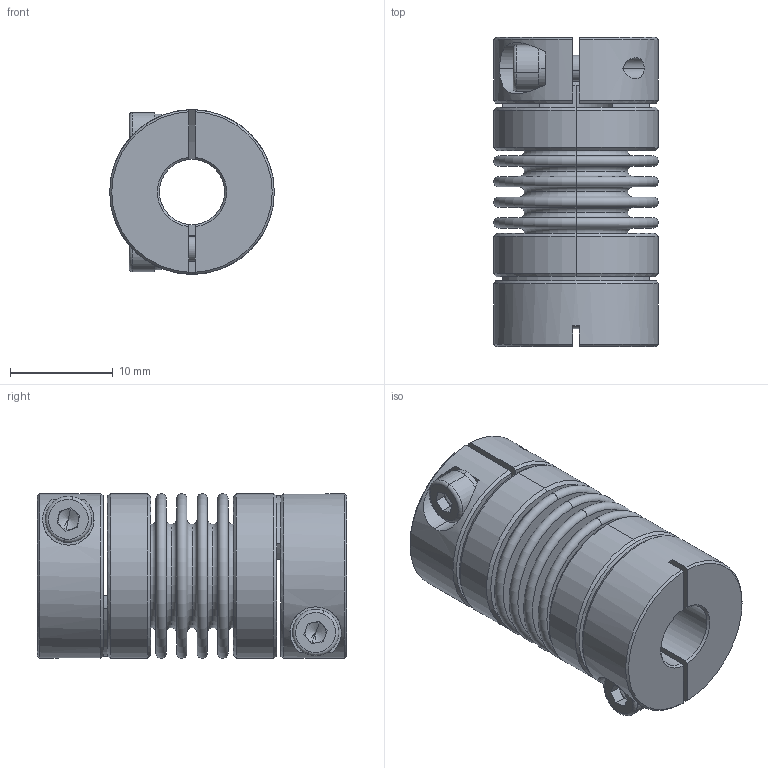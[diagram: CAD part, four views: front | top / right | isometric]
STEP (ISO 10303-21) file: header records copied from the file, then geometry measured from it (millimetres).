
FILE_DESCRIPTION (( 'STEP AP203' ), '1' );
FILE_NAME ('LB-B-D16L30-6.35-8.STEP', '2021-11-04T01:15:33', ( '' ), ( '' ), 'SwSTEP 2.0', 'SolidWorks 2018', '' );
FILE_SCHEMA (( 'CONFIG_CONTROL_DESIGN' ));
Length unit declared in the file: millimetre
Products named in the file (2): LB-B-D16L30-6.35-8; 零件1^LB-B-D16L30 波纹管联轴器-组装体
Assembly tree (1 placements, depth 2):
  LB-B-D16L30-6.35-8
    零件1^LB-B-D16L30 波纹管联轴器-组装体
Bounding box: 16 x 30.04 x 16 mm (x, y, z)
Volume: 2902.9 mm3; surface area: 6398.7 mm2
Topology: 1 solids, 1 shells, 254 faces, 586 edges, 362 vertices
Faces by surface type: plane 86, torus 68, cylinder 66, cone 34
Entity records: 7660 total; most frequent: CARTESIAN_POINT 1472, DIRECTION 1420, ORIENTED_EDGE 1164, AXIS2_PLACEMENT_3D 622, EDGE_CURVE 582, CIRCLE 364, VERTEX_POINT 362, EDGE_LOOP 296
